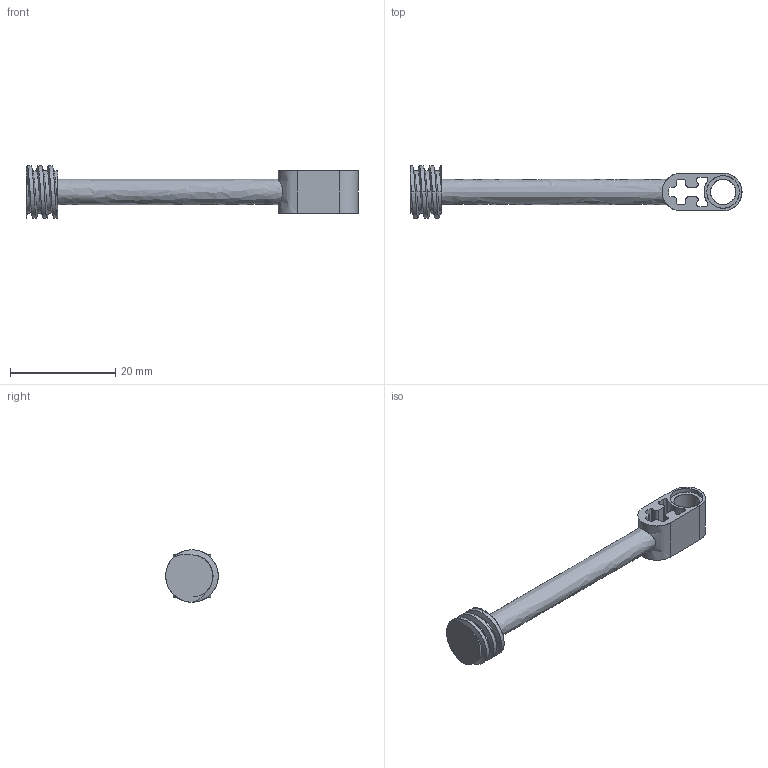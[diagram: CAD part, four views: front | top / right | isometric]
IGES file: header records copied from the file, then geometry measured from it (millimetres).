
Start section: C
Global section: file name: Gray_4638507_d)_AVV.iges; native system: By Siemens PLM Incorporated; preprocessor: XPlus GENERIC/IGES 26.1.183; author: Author; organization: Title; date: 20250722.000122; units: millimetre
Bounding box: 63.2 x 10 x 10 mm (x, y, z)
Surface area: 1823.5 mm2 (no closed solid volume)
Topology: 0 solids, 0 shells, 61 faces, 562 edges, 562 vertices
Faces by surface type: bspline 61
